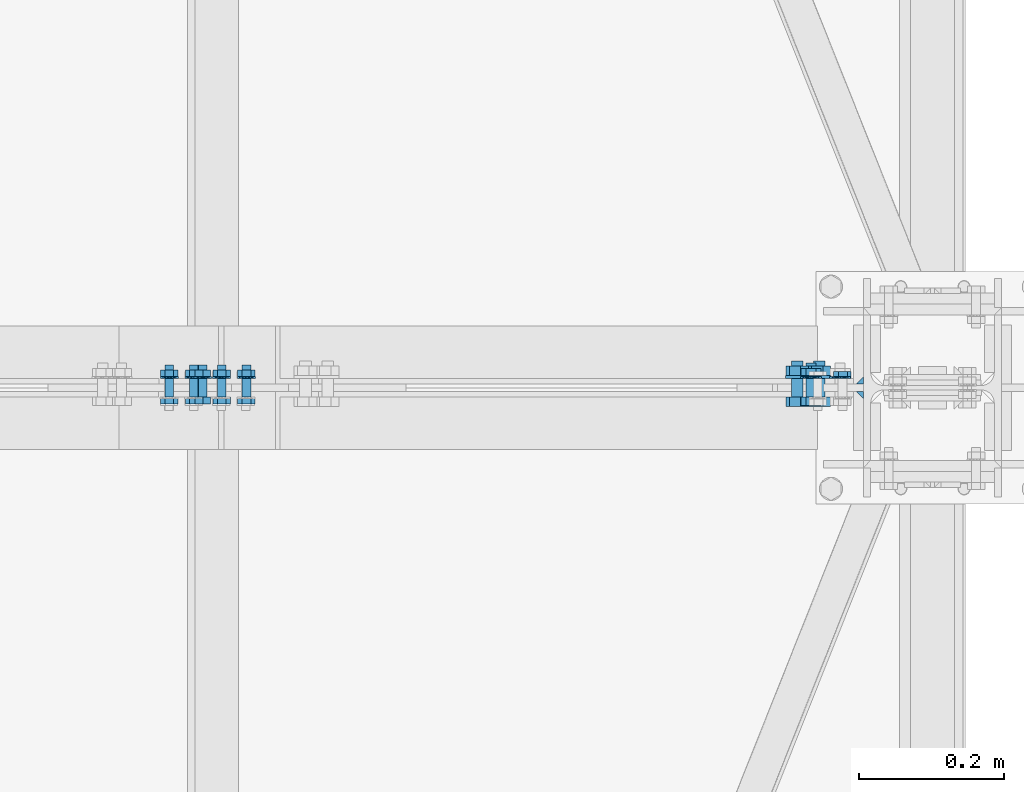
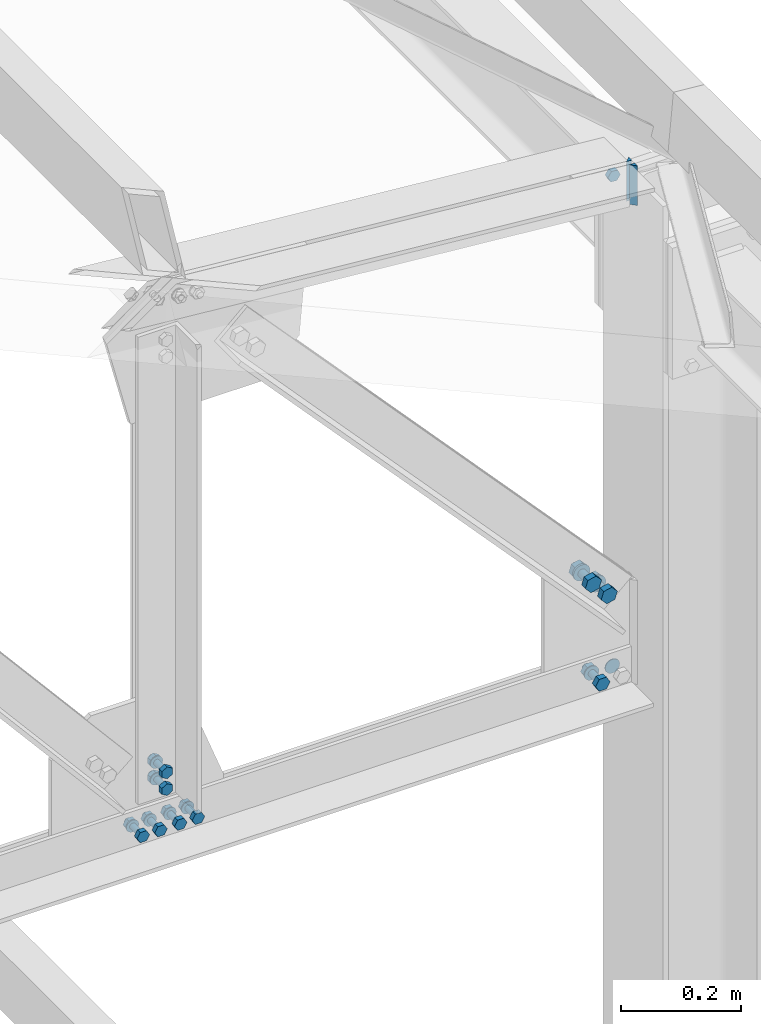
# One storey, part 179 of 251: 38 mechanical fasteners, 2 fasteners.
"""IFC4 building model written with IfcOpenShell, lengths in metres."""

from ifc_helpers import new_model, si_unit, frame, origin_with_axes, place, context, project, spatial, polyline, outline, extrude, type_object, element, save


model = new_model("IFC4")

# Units and contexts
model_context = context("Model", 3, precision=1e-05, world=origin_with_axes())
ifc_project = project(units=[si_unit("LENGTHUNIT", "METRE"), si_unit("AREAUNIT", "SQUARE_METRE"), si_unit("VOLUMEUNIT", "CUBIC_METRE"), si_unit("MASSUNIT", "GRAM", prefix="KILO"), si_unit("TIMEUNIT", "SECOND"), si_unit("PLANEANGLEUNIT", "RADIAN"), si_unit("SOLIDANGLEUNIT", "STERADIAN"), si_unit("THERMODYNAMICTEMPERATUREUNIT", "DEGREE_CELSIUS")], contexts=[model_context])

# Site, building, storey
placement_1 = place(None, origin_with_axes())
site = spatial("IfcSite", under=ifc_project, at=placement_1, Name="Italia", CompositionType="ELEMENT")
building = spatial("IfcBuilding", under=site, at=placement_1, Name="Deposito", CompositionType="ELEMENT")
storey = spatial("IfcBuildingStorey", under=building, at=placement_1, Name="Storey 0", CompositionType="ELEMENT", Elevation=0.0)

# Mechanical fasteners
mechanical_fastener_type_1 = type_object("IfcMechanicalFastenerType", Name="Reticolare 5", PredefinedType="BOLT")
placement_2 = place(placement_1, origin_with_axes())
mechanical_fastener_1_placement = place(placement_2, origin_with_axes())
element("IfcMechanicalFastener", 1, at=mechanical_fastener_1_placement, inside=storey, type_object=mechanical_fastener_type_1, Name="Reticolare 5", NominalDiameter=0.028, context=model_context, shape_type="SweptSolid", body=[
    extrude(outline(polyline([(0.0, 0.0), (-0.000476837, -0.00362349), (-0.00187492, -0.00699997), (-0.0041008, -0.00989962), (-0.00699997, -0.0121245), (-0.010376, -0.0135231), (-0.0139999, -0.0139999), (-0.0176239, -0.0135231), (-0.0209999, -0.0121245), (-0.0238991, -0.00989962), (-0.026125, -0.00699997), (-0.027523, -0.00362349), (-0.0279999, 0.0), (-0.027523, 0.00362349), (-0.026125, 0.00699997), (-0.0238991, 0.00989962), (-0.0209999, 0.0121245), (-0.0176239, 0.0135231), (-0.0139999, 0.0139999), (-0.010376, 0.0135231), (-0.00699997, 0.0121245), (-0.0041008, 0.00989962), (-0.00187492, 0.00699997), (-0.000476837, 0.00362349), (0.0, 0.0)])), frame((19.887, 15.015, 5.009), z_axis=(0.0, -1.0, 0.0), x_axis=(1.0, 0.0, 0.0)), (0.0, 0.0, 1.0), 0.00200081),
])
mechanical_fastener_type_2 = type_object("IfcMechanicalFastenerType", Name="Reticolare 5", PredefinedType="BOLT")
mechanical_fastener_2_placement = place(placement_2, origin_with_axes())
element("IfcMechanicalFastener", 2, at=mechanical_fastener_2_placement, inside=storey, type_object=mechanical_fastener_type_2, Name="Reticolare 5", NominalDiameter=0.0139997, context=model_context, shape_type="SweptSolid", body=[
    extrude(outline(polyline([(0.0, 0.0), (-0.0139999, 0.0), (-0.0209999, 0.0121241), (-0.0139999, 0.0242486), (0.0, 0.0242486), (0.00699997, 0.0121241), (0.0, 0.0)])), frame((19.84, 14.987, 4.99688), z_axis=(0.0, -1.0, 0.0), x_axis=(1.0, 0.0, 0.0)), (0.0, 0.0, 1.0), 0.0112009),
])
mechanical_fastener_type_3 = type_object("IfcMechanicalFastenerType", Name="Reticolare 5", PredefinedType="BOLT")
mechanical_fastener_3_placement = place(placement_2, origin_with_axes())
element("IfcMechanicalFastener", 3, at=mechanical_fastener_3_placement, inside=storey, type_object=mechanical_fastener_type_3, Name="Reticolare 5", NominalDiameter=0.014, context=model_context, shape_type="SweptSolid", body=[
    extrude(outline(polyline([(0.0, 0.0), (-0.000238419, -0.0018115), (-0.000938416, -0.00349998), (-0.0020504, -0.00494957), (-0.00349998, -0.00606203), (-0.00518799, -0.00676155), (-0.00699997, -0.00699997), (-0.00881195, -0.00676155), (-0.0105, -0.00606203), (-0.0119495, -0.00494957), (-0.0130615, -0.00349998), (-0.0137615, -0.0018115), (-0.0139999, 0.0), (-0.0137615, 0.0018115), (-0.0130615, 0.00349998), (-0.0119495, 0.00494957), (-0.0105, 0.00606203), (-0.00881195, 0.00676155), (-0.00699997, 0.00699997), (-0.00518799, 0.00676155), (-0.00349998, 0.00606203), (-0.0020504, 0.00494957), (-0.000938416, 0.00349998), (-0.000238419, 0.0018115), (0.0, 0.0)])), frame((19.84, 15.034, 5.009), z_axis=(0.0, -1.0, 0.0), x_axis=(1.0, 0.0, 0.0)), (0.0, 0.0, 1.0), 0.0469999),
])
mechanical_fastener_type_4 = type_object("IfcMechanicalFastenerType", Name="Reticolare 5", PredefinedType="BOLT")
mechanical_fastener_4_placement = place(placement_2, origin_with_axes())
element("IfcMechanicalFastener", 4, at=mechanical_fastener_4_placement, inside=storey, type_object=mechanical_fastener_type_4, Name="Reticolare 5", NominalDiameter=0.0139997, context=model_context, shape_type="SweptSolid", body=[
    extrude(outline(polyline([(0.0, 0.0), (-0.0139999, 0.0), (-0.0209999, 0.0121241), (-0.0139999, 0.0242486), (0.0, 0.0242486), (0.00699997, 0.0121241), (0.0, 0.0)])), frame((19.84, 15.0262, 4.99688), z_axis=(0.0, -1.0, 0.0), x_axis=(1.0, 0.0, 0.0)), (0.0, 0.0, 1.0), 0.0112),
])
mechanical_fastener_type_5 = type_object("IfcMechanicalFastenerType", Name="Reticolare 5", PredefinedType="BOLT")
mechanical_fastener_5_placement = place(placement_2, origin_with_axes())
element("IfcMechanicalFastener", 5, at=mechanical_fastener_5_placement, inside=storey, type_object=mechanical_fastener_type_5, Name="Reticolare 5", NominalDiameter=0.028, context=model_context, shape_type="SweptSolid", body=[
    extrude(outline(polyline([(0.0, 0.0), (-0.000476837, -0.00362349), (-0.00187492, -0.00699997), (-0.0041008, -0.00989962), (-0.00699997, -0.0121245), (-0.010376, -0.0135231), (-0.0139999, -0.0139999), (-0.0176239, -0.0135231), (-0.0209999, -0.0121245), (-0.0238991, -0.00989962), (-0.026125, -0.00699997), (-0.027523, -0.00362349), (-0.0279999, 0.0), (-0.027523, 0.00362349), (-0.026125, 0.00699997), (-0.0238991, 0.00989962), (-0.0209999, 0.0121245), (-0.0176239, 0.0135231), (-0.0139999, 0.0139999), (-0.010376, 0.0135231), (-0.00699997, 0.0121245), (-0.0041008, 0.00989962), (-0.00187492, 0.00699997), (-0.000476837, 0.00362349), (0.0, 0.0)])), frame((19.847, 15.015, 5.009), z_axis=(0.0, -1.0, 0.0), x_axis=(1.0, 0.0, 0.0)), (0.0, 0.0, 1.0), 0.00200081),
])
mechanical_fastener_type_6 = type_object("IfcMechanicalFastenerType", Name="Reticolare 5", PredefinedType="BOLT")
mechanical_fastener_6_placement = place(placement_2, origin_with_axes())
element("IfcMechanicalFastener", 6, at=mechanical_fastener_6_placement, inside=storey, type_object=mechanical_fastener_type_6, Name="Reticolare 5", NominalDiameter=0.0159985, context=model_context, shape_type="SweptSolid", body=[
    extrude(outline(polyline([(0.0, 0.0), (-0.0108109, 0.0117965), (-0.00599861, 0.0270557), (0.00962257, 0.030519), (0.0204315, 0.0187225), (0.0156193, 0.00346279), (0.0, 0.0)])), frame((19.8397, 14.987, 5.17076), z_axis=(0.0, -1.0, 0.0), x_axis=(1.0, 0.0, 0.0)), (0.0, 0.0, 1.0), 0.0128002),
])
mechanical_fastener_type_7 = type_object("IfcMechanicalFastenerType", Name="Reticolare 5", PredefinedType="BOLT")
mechanical_fastener_7_placement = place(placement_2, origin_with_axes())
element("IfcMechanicalFastener", 7, at=mechanical_fastener_7_placement, inside=storey, type_object=mechanical_fastener_type_7, Name="Reticolare 5", NominalDiameter=0.016, context=model_context, shape_type="SweptSolid", body=[
    extrude(outline(polyline([(0.0, 0.0), (-0.000272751, -0.00207043), (-0.00107193, -0.00400019), (-0.00234222, -0.00565672), (-0.00399971, -0.00692797), (-0.00592804, -0.00772762), (-0.00799942, -0.0079999), (-0.0100708, -0.00772762), (-0.0119991, -0.00692797), (-0.0136566, -0.00565672), (-0.0149269, -0.00400019), (-0.0157261, -0.00207043), (-0.0159988, 0.0), (-0.0157261, 0.00207043), (-0.0149269, 0.00400019), (-0.0136566, 0.00565672), (-0.0119991, 0.00692797), (-0.0100708, 0.00772762), (-0.00799942, 0.0079999), (-0.00592804, 0.00772762), (-0.00399971, 0.00692797), (-0.00234222, 0.00565672), (-0.00107193, 0.00400019), (-0.000272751, 0.00207043), (0.0, 0.0)])), frame((19.8525, 15.037, 5.18602), z_axis=(0.0, -1.0, 0.0), x_axis=(1.0, 0.0, 0.0)), (0.0, 0.0, 1.0), 0.0499992),
])
mechanical_fastener_type_8 = type_object("IfcMechanicalFastenerType", Name="Reticolare 5", PredefinedType="BOLT")
mechanical_fastener_8_placement = place(placement_2, origin_with_axes())
element("IfcMechanicalFastener", 8, at=mechanical_fastener_8_placement, inside=storey, type_object=mechanical_fastener_type_8, Name="Reticolare 5", NominalDiameter=0.0159985, context=model_context, shape_type="SweptSolid", body=[
    extrude(outline(polyline([(0.0, 0.0), (-0.0108109, 0.0117965), (-0.00599861, 0.0270557), (0.00962257, 0.030519), (0.0204315, 0.0187225), (0.0156193, 0.00346279), (0.0, 0.0)])), frame((19.8397, 15.0298, 5.17076), z_axis=(0.0, -1.0, 0.0), x_axis=(1.0, 0.0, 0.0)), (0.0, 0.0, 1.0), 0.0128002),
])
mechanical_fastener_type_9 = type_object("IfcMechanicalFastenerType", Name="Reticolare 5", PredefinedType="BOLT")
mechanical_fastener_9_placement = place(placement_2, origin_with_axes())
element("IfcMechanicalFastener", 9, at=mechanical_fastener_9_placement, inside=storey, type_object=mechanical_fastener_type_9, Name="Reticolare 5", NominalDiameter=0.032, context=model_context, shape_type="SweptSolid", body=[
    extrude(outline(polyline([(0.0, 0.0), (-0.000545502, -0.00414133), (-0.00214386, -0.0079999), (-0.00468636, -0.0113139), (-0.00800133, -0.0138564), (-0.0118599, -0.0154548), (-0.0160007, -0.0159998), (-0.0201416, -0.0154548), (-0.0240002, -0.0138564), (-0.0273151, -0.0113139), (-0.0298576, -0.0079999), (-0.031456, -0.00414133), (-0.0320015, 0.0), (-0.031456, 0.00414133), (-0.0298576, 0.0079999), (-0.0273151, 0.0113139), (-0.0240002, 0.0138564), (-0.0201416, 0.0154548), (-0.0160007, 0.0159998), (-0.0118599, 0.0154548), (-0.00800133, 0.0138564), (-0.00468636, 0.0113139), (-0.00214386, 0.0079999), (-0.000545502, 0.00414133), (0.0, 0.0)])), frame((19.8605, 15.017, 5.18602), z_axis=(0.0, -1.0, 0.0), x_axis=(1.0, 0.0, 0.0)), (0.0, 0.0, 1.0), 0.00400066),
])
mechanical_fastener_type_10 = type_object("IfcMechanicalFastenerType", Name="Reticolare 5", PredefinedType="BOLT")
mechanical_fastener_10_placement = place(placement_2, origin_with_axes())
element("IfcMechanicalFastener", 10, at=mechanical_fastener_10_placement, inside=storey, type_object=mechanical_fastener_type_10, Name="Reticolare 5", NominalDiameter=0.0159985, context=model_context, shape_type="SweptSolid", body=[
    extrude(outline(polyline([(0.0, 0.0), (-0.0108089, 0.0117965), (-0.0059967, 0.0270562), (0.00962257, 0.030519), (0.0204334, 0.0187225), (0.0156212, 0.00346327), (0.0, 0.0)])), frame((19.8093, 14.987, 5.20394), z_axis=(0.0, -1.0, 0.0), x_axis=(1.0, 0.0, 0.0)), (0.0, 0.0, 1.0), 0.0128002),
])
mechanical_fastener_type_11 = type_object("IfcMechanicalFastenerType", Name="Reticolare 5", PredefinedType="BOLT")
mechanical_fastener_11_placement = place(placement_2, origin_with_axes())
element("IfcMechanicalFastener", 11, at=mechanical_fastener_11_placement, inside=storey, type_object=mechanical_fastener_type_11, Name="Reticolare 5", NominalDiameter=0.016, context=model_context, shape_type="SweptSolid", body=[
    extrude(outline(polyline([(0.0, 0.0), (-0.000272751, -0.00207043), (-0.00107193, -0.00400019), (-0.00234222, -0.00565672), (-0.00399971, -0.00692797), (-0.00592804, -0.00772762), (-0.00799942, -0.0079999), (-0.0100708, -0.00772762), (-0.0119991, -0.00692797), (-0.0136566, -0.00565672), (-0.0149269, -0.00400019), (-0.0157261, -0.00207043), (-0.0159988, 0.0), (-0.0157261, 0.00207043), (-0.0149269, 0.00400019), (-0.0136566, 0.00565672), (-0.0119991, 0.00692797), (-0.0100708, 0.00772762), (-0.00799942, 0.0079999), (-0.00592804, 0.00772762), (-0.00399971, 0.00692797), (-0.00234222, 0.00565672), (-0.00107193, 0.00400019), (-0.000272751, 0.00207043), (0.0, 0.0)])), frame((19.8221, 15.037, 5.2192), z_axis=(0.0, -1.0, 0.0), x_axis=(1.0, 0.0, 0.0)), (0.0, 0.0, 1.0), 0.0499992),
])
mechanical_fastener_type_12 = type_object("IfcMechanicalFastenerType", Name="Reticolare 5", PredefinedType="BOLT")
mechanical_fastener_12_placement = place(placement_2, origin_with_axes())
element("IfcMechanicalFastener", 12, at=mechanical_fastener_12_placement, inside=storey, type_object=mechanical_fastener_type_12, Name="Reticolare 5", NominalDiameter=0.0159985, context=model_context, shape_type="SweptSolid", body=[
    extrude(outline(polyline([(0.0, 0.0), (-0.0108089, 0.0117965), (-0.0059967, 0.0270562), (0.00962257, 0.030519), (0.0204334, 0.0187225), (0.0156212, 0.00346327), (0.0, 0.0)])), frame((19.8093, 15.0298, 5.20394), z_axis=(0.0, -1.0, 0.0), x_axis=(1.0, 0.0, 0.0)), (0.0, 0.0, 1.0), 0.0128002),
])
mechanical_fastener_type_13 = type_object("IfcMechanicalFastenerType", Name="Reticolare 5", PredefinedType="BOLT")
mechanical_fastener_13_placement = place(placement_2, origin_with_axes())
element("IfcMechanicalFastener", 13, at=mechanical_fastener_13_placement, inside=storey, type_object=mechanical_fastener_type_13, Name="Reticolare 5", NominalDiameter=0.032, context=model_context, shape_type="SweptSolid", body=[
    extrude(outline(polyline([(0.0, 0.0), (-0.000545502, -0.00414133), (-0.00214386, -0.0079999), (-0.00468636, -0.0113139), (-0.00800133, -0.0138564), (-0.0118599, -0.0154548), (-0.0160007, -0.0159998), (-0.0201416, -0.0154548), (-0.0240002, -0.0138564), (-0.0273151, -0.0113139), (-0.0298576, -0.0079999), (-0.031456, -0.00414133), (-0.0320015, 0.0), (-0.031456, 0.00414133), (-0.0298576, 0.0079999), (-0.0273151, 0.0113139), (-0.0240002, 0.0138564), (-0.0201416, 0.0154548), (-0.0160007, 0.0159998), (-0.0118599, 0.0154548), (-0.00800133, 0.0138564), (-0.00468636, 0.0113139), (-0.00214386, 0.0079999), (-0.000545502, 0.00414133), (0.0, 0.0)])), frame((19.8301, 15.017, 5.2192), z_axis=(0.0, -1.0, 0.0), x_axis=(1.0, 0.0, 0.0)), (0.0, 0.0, 1.0), 0.00400066),
])
mechanical_fastener_type_14 = type_object("IfcMechanicalFastenerType", Name="Reticolare 5", PredefinedType="BOLT")
mechanical_fastener_14_placement = place(placement_2, origin_with_axes())
element("IfcMechanicalFastener", 14, at=mechanical_fastener_14_placement, inside=storey, type_object=mechanical_fastener_type_14, Name="Reticolare 5", NominalDiameter=0.0119991, context=model_context, shape_type="SweptSolid", body=[
    extrude(outline(polyline([(0.0, 0.0), (-0.0119991, 0.0), (-0.0179996, 0.0103922), (-0.0119991, 0.0207844), (0.0, 0.0207844), (0.00600052, 0.0103922), (0.0, 0.0)])), frame((18.9908, 14.987, 4.99661), z_axis=(0.0, -1.0, 0.0), x_axis=(1.0, 0.0, 0.0)), (0.0, 0.0, 1.0), 0.00960064),
])
mechanical_fastener_type_15 = type_object("IfcMechanicalFastenerType", Name="Reticolare 5", PredefinedType="BOLT")
mechanical_fastener_15_placement = place(placement_2, origin_with_axes())
element("IfcMechanicalFastener", 15, at=mechanical_fastener_15_placement, inside=storey, type_object=mechanical_fastener_type_15, Name="Reticolare 5", NominalDiameter=0.012, context=model_context, shape_type="SweptSolid", body=[
    extrude(outline(polyline([(0.0, 0.0), (-0.000204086, -0.00155306), (-0.000804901, -0.00299978), (-0.00175858, -0.00424242), (-0.00300026, -0.00519609), (-0.00444794, -0.00579548), (-0.00600052, -0.00600004), (-0.0075531, -0.00579548), (-0.00900078, -0.00519609), (-0.0102425, -0.00424242), (-0.0111961, -0.00299978), (-0.011797, -0.00155306), (-0.012001, 0.0), (-0.011797, 0.00155306), (-0.0111961, 0.00299978), (-0.0102425, 0.00424242), (-0.00900078, 0.00519609), (-0.0075531, 0.00579548), (-0.00600052, 0.00600004), (-0.00444794, 0.00579548), (-0.00300026, 0.00519609), (-0.00175858, 0.00424242), (-0.000804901, 0.00299978), (-0.000204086, 0.00155306), (0.0, 0.0)])), frame((18.9908, 15.031, 5.007), z_axis=(0.0, -1.0, 0.0), x_axis=(1.0, 0.0, 0.0)), (0.0, 0.0, 1.0), 0.0439997),
])
mechanical_fastener_type_16 = type_object("IfcMechanicalFastenerType", Name="Reticolare 5", PredefinedType="BOLT")
mechanical_fastener_16_placement = place(placement_2, origin_with_axes())
element("IfcMechanicalFastener", 16, at=mechanical_fastener_16_placement, inside=storey, type_object=mechanical_fastener_type_16, Name="Reticolare 5", NominalDiameter=0.0119991, context=model_context, shape_type="SweptSolid", body=[
    extrude(outline(polyline([(0.0, 0.0), (-0.0119991, 0.0), (-0.0179996, 0.0103922), (-0.0119991, 0.0207844), (0.0, 0.0207844), (0.00600052, 0.0103922), (0.0, 0.0)])), frame((18.9908, 15.0246, 4.99661), z_axis=(0.0, -1.0, 0.0), x_axis=(1.0, 0.0, 0.0)), (0.0, 0.0, 1.0), 0.00959969),
])
mechanical_fastener_type_17 = type_object("IfcMechanicalFastenerType", Name="Reticolare 5", PredefinedType="BOLT")
mechanical_fastener_17_placement = place(placement_2, origin_with_axes())
element("IfcMechanicalFastener", 17, at=mechanical_fastener_17_placement, inside=storey, type_object=mechanical_fastener_type_17, Name="Reticolare 5", NominalDiameter=0.024, context=model_context, shape_type="SweptSolid", body=[
    extrude(outline(polyline([(0.0, 0.0), (-0.000408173, -0.00310564), (-0.00160599, -0.00600004), (-0.00351334, -0.00848532), (-0.00599861, -0.0103922), (-0.00889397, -0.011591), (-0.0119991, -0.0120001), (-0.0151043, -0.011591), (-0.0179996, -0.0103922), (-0.0204849, -0.00848532), (-0.0223923, -0.00600004), (-0.0235901, -0.00310564), (-0.0239983, 0.0), (-0.0235901, 0.00310564), (-0.0223923, 0.00600004), (-0.0204849, 0.00848532), (-0.0179996, 0.0103922), (-0.0151043, 0.011591), (-0.0119991, 0.0120001), (-0.00889397, 0.011591), (-0.00599861, 0.0103922), (-0.00351334, 0.00848532), (-0.00160599, 0.00600004), (-0.000408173, 0.00310564), (0.0, 0.0)])), frame((18.9968, 15.015, 5.007), z_axis=(0.0, -1.0, 0.0), x_axis=(1.0, 0.0, 0.0)), (0.0, 0.0, 1.0), 0.00200081),
])
mechanical_fastener_type_18 = type_object("IfcMechanicalFastenerType", Name="Reticolare 5", PredefinedType="BOLT")
mechanical_fastener_18_placement = place(placement_2, origin_with_axes())
element("IfcMechanicalFastener", 18, at=mechanical_fastener_18_placement, inside=storey, type_object=mechanical_fastener_type_18, Name="Reticolare 5", NominalDiameter=0.0119991, context=model_context, shape_type="SweptSolid", body=[
    extrude(outline(polyline([(0.0, 0.0), (-0.0119991, 0.0), (-0.0179996, 0.0103922), (-0.0119991, 0.0207844), (0.0, 0.0207844), (0.00600052, 0.0103922), (0.0, 0.0)])), frame((18.9568, 14.987, 4.99661), z_axis=(0.0, -1.0, 0.0), x_axis=(1.0, 0.0, 0.0)), (0.0, 0.0, 1.0), 0.00960064),
])
mechanical_fastener_type_19 = type_object("IfcMechanicalFastenerType", Name="Reticolare 5", PredefinedType="BOLT")
mechanical_fastener_19_placement = place(placement_2, origin_with_axes())
element("IfcMechanicalFastener", 19, at=mechanical_fastener_19_placement, inside=storey, type_object=mechanical_fastener_type_19, Name="Reticolare 5", NominalDiameter=0.012, context=model_context, shape_type="SweptSolid", body=[
    extrude(outline(polyline([(0.0, 0.0), (-0.000204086, -0.00155306), (-0.000804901, -0.00299978), (-0.00175858, -0.00424242), (-0.00300026, -0.00519609), (-0.00444794, -0.00579548), (-0.00600052, -0.00600004), (-0.0075531, -0.00579548), (-0.00900078, -0.00519609), (-0.0102425, -0.00424242), (-0.0111961, -0.00299978), (-0.011797, -0.00155306), (-0.012001, 0.0), (-0.011797, 0.00155306), (-0.0111961, 0.00299978), (-0.0102425, 0.00424242), (-0.00900078, 0.00519609), (-0.0075531, 0.00579548), (-0.00600052, 0.00600004), (-0.00444794, 0.00579548), (-0.00300026, 0.00519609), (-0.00175858, 0.00424242), (-0.000804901, 0.00299978), (-0.000204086, 0.00155306), (0.0, 0.0)])), frame((18.9568, 15.031, 5.007), z_axis=(0.0, -1.0, 0.0), x_axis=(1.0, 0.0, 0.0)), (0.0, 0.0, 1.0), 0.0439997),
])
mechanical_fastener_type_20 = type_object("IfcMechanicalFastenerType", Name="Reticolare 5", PredefinedType="BOLT")
mechanical_fastener_20_placement = place(placement_2, origin_with_axes())
element("IfcMechanicalFastener", 20, at=mechanical_fastener_20_placement, inside=storey, type_object=mechanical_fastener_type_20, Name="Reticolare 5", NominalDiameter=0.0119991, context=model_context, shape_type="SweptSolid", body=[
    extrude(outline(polyline([(0.0, 0.0), (-0.0119991, 0.0), (-0.0179996, 0.0103922), (-0.0119991, 0.0207844), (0.0, 0.0207844), (0.00600052, 0.0103922), (0.0, 0.0)])), frame((18.9568, 15.0246, 4.99661), z_axis=(0.0, -1.0, 0.0), x_axis=(1.0, 0.0, 0.0)), (0.0, 0.0, 1.0), 0.00959969),
])
mechanical_fastener_type_21 = type_object("IfcMechanicalFastenerType", Name="Reticolare 5", PredefinedType="BOLT")
mechanical_fastener_21_placement = place(placement_2, origin_with_axes())
element("IfcMechanicalFastener", 21, at=mechanical_fastener_21_placement, inside=storey, type_object=mechanical_fastener_type_21, Name="Reticolare 5", NominalDiameter=0.024, context=model_context, shape_type="SweptSolid", body=[
    extrude(outline(polyline([(0.0, 0.0), (-0.000408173, -0.00310564), (-0.00160599, -0.00600004), (-0.00351334, -0.00848532), (-0.00599861, -0.0103922), (-0.00889397, -0.011591), (-0.0119991, -0.0120001), (-0.0151043, -0.011591), (-0.0179996, -0.0103922), (-0.0204849, -0.00848532), (-0.0223923, -0.00600004), (-0.0235901, -0.00310564), (-0.0239983, 0.0), (-0.0235901, 0.00310564), (-0.0223923, 0.00600004), (-0.0204849, 0.00848532), (-0.0179996, 0.0103922), (-0.0151043, 0.011591), (-0.0119991, 0.0120001), (-0.00889397, 0.011591), (-0.00599861, 0.0103922), (-0.00351334, 0.00848532), (-0.00160599, 0.00600004), (-0.000408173, 0.00310564), (0.0, 0.0)])), frame((18.9628, 15.015, 5.007), z_axis=(0.0, -1.0, 0.0), x_axis=(1.0, 0.0, 0.0)), (0.0, 0.0, 1.0), 0.00200081),
])
mechanical_fastener_type_22 = type_object("IfcMechanicalFastenerType", Name="Reticolare 5", PredefinedType="BOLT")
mechanical_fastener_22_placement = place(placement_2, origin_with_axes())
element("IfcMechanicalFastener", 22, at=mechanical_fastener_22_placement, inside=storey, type_object=mechanical_fastener_type_22, Name="Reticolare 5", NominalDiameter=0.0119991, context=model_context, shape_type="SweptSolid", body=[
    extrude(outline(polyline([(0.0, 0.0), (-0.0119991, 0.0), (-0.0179996, 0.0103922), (-0.0119991, 0.0207844), (0.0, 0.0207844), (0.00600052, 0.0103922), (0.0, 0.0)])), frame((19.0288, 14.987, 4.99661), z_axis=(0.0, -1.0, 0.0), x_axis=(1.0, 0.0, 0.0)), (0.0, 0.0, 1.0), 0.00960064),
])
mechanical_fastener_type_23 = type_object("IfcMechanicalFastenerType", Name="Reticolare 5", PredefinedType="BOLT")
mechanical_fastener_23_placement = place(placement_2, origin_with_axes())
element("IfcMechanicalFastener", 23, at=mechanical_fastener_23_placement, inside=storey, type_object=mechanical_fastener_type_23, Name="Reticolare 5", NominalDiameter=0.012, context=model_context, shape_type="SweptSolid", body=[
    extrude(outline(polyline([(0.0, 0.0), (-0.000204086, -0.00155306), (-0.000804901, -0.00299978), (-0.00175858, -0.00424242), (-0.00300026, -0.00519609), (-0.00444794, -0.00579548), (-0.00600052, -0.00600004), (-0.0075531, -0.00579548), (-0.00900078, -0.00519609), (-0.0102425, -0.00424242), (-0.0111961, -0.00299978), (-0.011797, -0.00155306), (-0.012001, 0.0), (-0.011797, 0.00155306), (-0.0111961, 0.00299978), (-0.0102425, 0.00424242), (-0.00900078, 0.00519609), (-0.0075531, 0.00579548), (-0.00600052, 0.00600004), (-0.00444794, 0.00579548), (-0.00300026, 0.00519609), (-0.00175858, 0.00424242), (-0.000804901, 0.00299978), (-0.000204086, 0.00155306), (0.0, 0.0)])), frame((19.0288, 15.031, 5.007), z_axis=(0.0, -1.0, 0.0), x_axis=(1.0, 0.0, 0.0)), (0.0, 0.0, 1.0), 0.0439997),
])
mechanical_fastener_type_24 = type_object("IfcMechanicalFastenerType", Name="Reticolare 5", PredefinedType="BOLT")
mechanical_fastener_24_placement = place(placement_2, origin_with_axes())
element("IfcMechanicalFastener", 24, at=mechanical_fastener_24_placement, inside=storey, type_object=mechanical_fastener_type_24, Name="Reticolare 5", NominalDiameter=0.0119991, context=model_context, shape_type="SweptSolid", body=[
    extrude(outline(polyline([(0.0, 0.0), (-0.0119991, 0.0), (-0.0179996, 0.0103922), (-0.0119991, 0.0207844), (0.0, 0.0207844), (0.00600052, 0.0103922), (0.0, 0.0)])), frame((19.0288, 15.0246, 4.99661), z_axis=(0.0, -1.0, 0.0), x_axis=(1.0, 0.0, 0.0)), (0.0, 0.0, 1.0), 0.00959969),
])
mechanical_fastener_type_25 = type_object("IfcMechanicalFastenerType", Name="Reticolare 5", PredefinedType="BOLT")
mechanical_fastener_25_placement = place(placement_2, origin_with_axes())
element("IfcMechanicalFastener", 25, at=mechanical_fastener_25_placement, inside=storey, type_object=mechanical_fastener_type_25, Name="Reticolare 5", NominalDiameter=0.024, context=model_context, shape_type="SweptSolid", body=[
    extrude(outline(polyline([(0.0, 0.0), (-0.000408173, -0.00310564), (-0.00160599, -0.00600004), (-0.00351334, -0.00848532), (-0.00599861, -0.0103922), (-0.00889397, -0.011591), (-0.0119991, -0.0120001), (-0.0151043, -0.011591), (-0.0179996, -0.0103922), (-0.0204849, -0.00848532), (-0.0223923, -0.00600004), (-0.0235901, -0.00310564), (-0.0239983, 0.0), (-0.0235901, 0.00310564), (-0.0223923, 0.00600004), (-0.0204849, 0.00848532), (-0.0179996, 0.0103922), (-0.0151043, 0.011591), (-0.0119991, 0.0120001), (-0.00889397, 0.011591), (-0.00599861, 0.0103922), (-0.00351334, 0.00848532), (-0.00160599, 0.00600004), (-0.000408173, 0.00310564), (0.0, 0.0)])), frame((19.0348, 15.015, 5.007), z_axis=(0.0, -1.0, 0.0), x_axis=(1.0, 0.0, 0.0)), (0.0, 0.0, 1.0), 0.00200081),
])
mechanical_fastener_type_26 = type_object("IfcMechanicalFastenerType", Name="Reticolare 5", PredefinedType="BOLT")
mechanical_fastener_26_placement = place(placement_2, origin_with_axes())
element("IfcMechanicalFastener", 26, at=mechanical_fastener_26_placement, inside=storey, type_object=mechanical_fastener_type_26, Name="Reticolare 5", NominalDiameter=0.0119991, context=model_context, shape_type="SweptSolid", body=[
    extrude(outline(polyline([(0.0, 0.0), (-0.0119991, 0.0), (-0.0179996, 0.0103922), (-0.0119991, 0.0207844), (0.0, 0.0207844), (0.00600052, 0.0103922), (0.0, 0.0)])), frame((19.0628, 14.987, 4.99661), z_axis=(0.0, -1.0, 0.0), x_axis=(1.0, 0.0, 0.0)), (0.0, 0.0, 1.0), 0.00960064),
])
mechanical_fastener_type_27 = type_object("IfcMechanicalFastenerType", Name="Reticolare 5", PredefinedType="BOLT")
mechanical_fastener_27_placement = place(placement_2, origin_with_axes())
element("IfcMechanicalFastener", 27, at=mechanical_fastener_27_placement, inside=storey, type_object=mechanical_fastener_type_27, Name="Reticolare 5", NominalDiameter=0.012, context=model_context, shape_type="SweptSolid", body=[
    extrude(outline(polyline([(0.0, 0.0), (-0.000204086, -0.00155306), (-0.000804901, -0.00299978), (-0.00175858, -0.00424242), (-0.00300026, -0.00519609), (-0.00444794, -0.00579548), (-0.00600052, -0.00600004), (-0.0075531, -0.00579548), (-0.00900078, -0.00519609), (-0.0102425, -0.00424242), (-0.0111961, -0.00299978), (-0.011797, -0.00155306), (-0.012001, 0.0), (-0.011797, 0.00155306), (-0.0111961, 0.00299978), (-0.0102425, 0.00424242), (-0.00900078, 0.00519609), (-0.0075531, 0.00579548), (-0.00600052, 0.00600004), (-0.00444794, 0.00579548), (-0.00300026, 0.00519609), (-0.00175858, 0.00424242), (-0.000804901, 0.00299978), (-0.000204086, 0.00155306), (0.0, 0.0)])), frame((19.0628, 15.031, 5.007), z_axis=(0.0, -1.0, 0.0), x_axis=(1.0, 0.0, 0.0)), (0.0, 0.0, 1.0), 0.0439997),
])
mechanical_fastener_type_28 = type_object("IfcMechanicalFastenerType", Name="Reticolare 5", PredefinedType="BOLT")
mechanical_fastener_28_placement = place(placement_2, origin_with_axes())
element("IfcMechanicalFastener", 28, at=mechanical_fastener_28_placement, inside=storey, type_object=mechanical_fastener_type_28, Name="Reticolare 5", NominalDiameter=0.0119991, context=model_context, shape_type="SweptSolid", body=[
    extrude(outline(polyline([(0.0, 0.0), (-0.0119991, 0.0), (-0.0179996, 0.0103922), (-0.0119991, 0.0207844), (0.0, 0.0207844), (0.00600052, 0.0103922), (0.0, 0.0)])), frame((19.0628, 15.0246, 4.99661), z_axis=(0.0, -1.0, 0.0), x_axis=(1.0, 0.0, 0.0)), (0.0, 0.0, 1.0), 0.00959969),
])
mechanical_fastener_type_29 = type_object("IfcMechanicalFastenerType", Name="Reticolare 5", PredefinedType="BOLT")
mechanical_fastener_29_placement = place(placement_2, origin_with_axes())
element("IfcMechanicalFastener", 29, at=mechanical_fastener_29_placement, inside=storey, type_object=mechanical_fastener_type_29, Name="Reticolare 5", NominalDiameter=0.024, context=model_context, shape_type="SweptSolid", body=[
    extrude(outline(polyline([(0.0, 0.0), (-0.000408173, -0.00310564), (-0.00160599, -0.00600004), (-0.00351334, -0.00848532), (-0.00599861, -0.0103922), (-0.00889397, -0.011591), (-0.0119991, -0.0120001), (-0.0151043, -0.011591), (-0.0179996, -0.0103922), (-0.0204849, -0.00848532), (-0.0223923, -0.00600004), (-0.0235901, -0.00310564), (-0.0239983, 0.0), (-0.0235901, 0.00310564), (-0.0223923, 0.00600004), (-0.0204849, 0.00848532), (-0.0179996, 0.0103922), (-0.0151043, 0.011591), (-0.0119991, 0.0120001), (-0.00889397, 0.011591), (-0.00599861, 0.0103922), (-0.00351334, 0.00848532), (-0.00160599, 0.00600004), (-0.000408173, 0.00310564), (0.0, 0.0)])), frame((19.0688, 15.015, 5.007), z_axis=(0.0, -1.0, 0.0), x_axis=(1.0, 0.0, 0.0)), (0.0, 0.0, 1.0), 0.00200081),
])
mechanical_fastener_type_30 = type_object("IfcMechanicalFastenerType", Name="Reticolare 5", PredefinedType="BOLT")
mechanical_fastener_30_placement = place(placement_2, origin_with_axes())
element("IfcMechanicalFastener", 30, at=mechanical_fastener_30_placement, inside=storey, type_object=mechanical_fastener_type_30, Name="Reticolare 5", NominalDiameter=0.0120001, context=model_context, shape_type="SweptSolid", body=[
    extrude(outline(polyline([(0.0, 0.0), (0.0, -0.0120001), (-0.0103931, -0.0180001), (-0.0207863, -0.0120001), (-0.0207863, 0.0), (-0.0103931, 0.00600004), (0.0, 0.0)])), frame((19.0072, 14.987, 5.09253), z_axis=(0.0, -1.0, 0.0), x_axis=(1.0, 0.0, 0.0)), (0.0, 0.0, 1.0), 0.00960064),
])
mechanical_fastener_type_31 = type_object("IfcMechanicalFastenerType", Name="Reticolare 5", PredefinedType="BOLT")
mechanical_fastener_31_placement = place(placement_2, origin_with_axes())
element("IfcMechanicalFastener", 31, at=mechanical_fastener_31_placement, inside=storey, type_object=mechanical_fastener_type_31, Name="Reticolare 5", NominalDiameter=0.012, context=model_context, shape_type="SweptSolid", body=[
    extrude(outline(polyline([(0.0, 0.0), (-0.000204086, -0.00155306), (-0.000804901, -0.00299978), (-0.00175858, -0.00424242), (-0.00300026, -0.00519609), (-0.00444794, -0.00579548), (-0.00600052, -0.00600004), (-0.0075531, -0.00579548), (-0.00900078, -0.00519609), (-0.0102425, -0.00424242), (-0.0111961, -0.00299978), (-0.011797, -0.00155306), (-0.012001, 0.0), (-0.011797, 0.00155306), (-0.0111961, 0.00299978), (-0.0102425, 0.00424242), (-0.00900078, 0.00519609), (-0.0075531, 0.00579548), (-0.00600052, 0.00600004), (-0.00444794, 0.00579548), (-0.00300026, 0.00519609), (-0.00175858, 0.00424242), (-0.000804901, 0.00299978), (-0.000204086, 0.00155306), (0.0, 0.0)])), frame((19.0028, 15.031, 5.08653), z_axis=(0.0, -1.0, 0.0), x_axis=(1.0, 0.0, 0.0)), (0.0, 0.0, 1.0), 0.0439997),
])
mechanical_fastener_type_32 = type_object("IfcMechanicalFastenerType", Name="Reticolare 5", PredefinedType="BOLT")
mechanical_fastener_32_placement = place(placement_2, origin_with_axes())
element("IfcMechanicalFastener", 32, at=mechanical_fastener_32_placement, inside=storey, type_object=mechanical_fastener_type_32, Name="Reticolare 5", NominalDiameter=0.0120001, context=model_context, shape_type="SweptSolid", body=[
    extrude(outline(polyline([(0.0, 0.0), (0.0, -0.0120001), (-0.0103931, -0.0180001), (-0.0207863, -0.0120001), (-0.0207863, 0.0), (-0.0103931, 0.00600004), (0.0, 0.0)])), frame((19.0072, 15.0246, 5.09253), z_axis=(0.0, -1.0, 0.0), x_axis=(1.0, 0.0, 0.0)), (0.0, 0.0, 1.0), 0.00959969),
])
mechanical_fastener_type_33 = type_object("IfcMechanicalFastenerType", Name="Reticolare 5", PredefinedType="BOLT")
mechanical_fastener_33_placement = place(placement_2, origin_with_axes())
element("IfcMechanicalFastener", 33, at=mechanical_fastener_33_placement, inside=storey, type_object=mechanical_fastener_type_33, Name="Reticolare 5", NominalDiameter=0.024, context=model_context, shape_type="SweptSolid", body=[
    extrude(outline(polyline([(0.0, 0.0), (-0.000408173, -0.00310564), (-0.00160599, -0.00600004), (-0.00351334, -0.00848532), (-0.00599861, -0.0103922), (-0.00889397, -0.011591), (-0.0119991, -0.0120001), (-0.0151043, -0.011591), (-0.0179996, -0.0103922), (-0.0204849, -0.00848532), (-0.0223923, -0.00600004), (-0.0235901, -0.00310564), (-0.0239983, 0.0), (-0.0235901, 0.00310564), (-0.0223923, 0.00600004), (-0.0204849, 0.00848532), (-0.0179996, 0.0103922), (-0.0151043, 0.011591), (-0.0119991, 0.0120001), (-0.00889397, 0.011591), (-0.00599861, 0.0103922), (-0.00351334, 0.00848532), (-0.00160599, 0.00600004), (-0.000408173, 0.00310564), (0.0, 0.0)])), frame((19.0088, 15.015, 5.08653), z_axis=(0.0, -1.0, 0.0), x_axis=(1.0, 0.0, 0.0)), (0.0, 0.0, 1.0), 0.00200081),
])
mechanical_fastener_type_34 = type_object("IfcMechanicalFastenerType", Name="Reticolare 5", PredefinedType="BOLT")
mechanical_fastener_34_placement = place(placement_2, origin_with_axes())
element("IfcMechanicalFastener", 34, at=mechanical_fastener_34_placement, inside=storey, type_object=mechanical_fastener_type_34, Name="Reticolare 5", NominalDiameter=0.0120001, context=model_context, shape_type="SweptSolid", body=[
    extrude(outline(polyline([(0.0, 0.0), (0.0, -0.0120001), (-0.0103931, -0.0180001), (-0.0207863, -0.0120001), (-0.0207863, 0.0), (-0.0103931, 0.00600004), (0.0, 0.0)])), frame((19.0072, 14.987, 5.12653), z_axis=(0.0, -1.0, 0.0), x_axis=(1.0, 0.0, 0.0)), (0.0, 0.0, 1.0), 0.00960064),
])
mechanical_fastener_type_35 = type_object("IfcMechanicalFastenerType", Name="Reticolare 5", PredefinedType="BOLT")
mechanical_fastener_35_placement = place(placement_2, origin_with_axes())
element("IfcMechanicalFastener", 35, at=mechanical_fastener_35_placement, inside=storey, type_object=mechanical_fastener_type_35, Name="Reticolare 5", NominalDiameter=0.012, context=model_context, shape_type="SweptSolid", body=[
    extrude(outline(polyline([(0.0, 0.0), (-0.000204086, -0.00155306), (-0.000804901, -0.00299978), (-0.00175858, -0.00424242), (-0.00300026, -0.00519609), (-0.00444794, -0.00579548), (-0.00600052, -0.00600004), (-0.0075531, -0.00579548), (-0.00900078, -0.00519609), (-0.0102425, -0.00424242), (-0.0111961, -0.00299978), (-0.011797, -0.00155306), (-0.012001, 0.0), (-0.011797, 0.00155306), (-0.0111961, 0.00299978), (-0.0102425, 0.00424242), (-0.00900078, 0.00519609), (-0.0075531, 0.00579548), (-0.00600052, 0.00600004), (-0.00444794, 0.00579548), (-0.00300026, 0.00519609), (-0.00175858, 0.00424242), (-0.000804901, 0.00299978), (-0.000204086, 0.00155306), (0.0, 0.0)])), frame((19.0028, 15.031, 5.12053), z_axis=(0.0, -1.0, 0.0), x_axis=(1.0, 0.0, 0.0)), (0.0, 0.0, 1.0), 0.0439997),
])
mechanical_fastener_type_36 = type_object("IfcMechanicalFastenerType", Name="Reticolare 5", PredefinedType="BOLT")
mechanical_fastener_36_placement = place(placement_2, origin_with_axes())
element("IfcMechanicalFastener", 36, at=mechanical_fastener_36_placement, inside=storey, type_object=mechanical_fastener_type_36, Name="Reticolare 5", NominalDiameter=0.0120001, context=model_context, shape_type="SweptSolid", body=[
    extrude(outline(polyline([(0.0, 0.0), (0.0, -0.0120001), (-0.0103931, -0.0180001), (-0.0207863, -0.0120001), (-0.0207863, 0.0), (-0.0103931, 0.00600004), (0.0, 0.0)])), frame((19.0072, 15.0246, 5.12653), z_axis=(0.0, -1.0, 0.0), x_axis=(1.0, 0.0, 0.0)), (0.0, 0.0, 1.0), 0.00959969),
])
mechanical_fastener_type_37 = type_object("IfcMechanicalFastenerType", Name="Reticolare 5", PredefinedType="BOLT")
mechanical_fastener_37_placement = place(placement_2, origin_with_axes())
element("IfcMechanicalFastener", 37, at=mechanical_fastener_37_placement, inside=storey, type_object=mechanical_fastener_type_37, Name="Reticolare 5", NominalDiameter=0.024, context=model_context, shape_type="SweptSolid", body=[
    extrude(outline(polyline([(0.0, 0.0), (-0.000408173, -0.00310564), (-0.00160599, -0.00600004), (-0.00351334, -0.00848532), (-0.00599861, -0.0103922), (-0.00889397, -0.011591), (-0.0119991, -0.0120001), (-0.0151043, -0.011591), (-0.0179996, -0.0103922), (-0.0204849, -0.00848532), (-0.0223923, -0.00600004), (-0.0235901, -0.00310564), (-0.0239983, 0.0), (-0.0235901, 0.00310564), (-0.0223923, 0.00600004), (-0.0204849, 0.00848532), (-0.0179996, 0.0103922), (-0.0151043, 0.011591), (-0.0119991, 0.0120001), (-0.00889397, 0.011591), (-0.00599861, 0.0103922), (-0.00351334, 0.00848532), (-0.00160599, 0.00600004), (-0.000408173, 0.00310564), (0.0, 0.0)])), frame((19.0088, 15.015, 5.12053), z_axis=(0.0, -1.0, 0.0), x_axis=(1.0, 0.0, 0.0)), (0.0, 0.0, 1.0), 0.00200081),
])

# Fasteners
fastener_type_1 = type_object("IfcFastenerType", Name="Reticolare 5", PredefinedType="WELD")
fastener_1_placement = place(placement_2, origin_with_axes())
element("IfcFastener", 38, at=fastener_1_placement, inside=storey, type_object=fastener_type_1, Name="Reticolare 5", context=model_context, shape_type="SweptSolid", body=[
    extrude(outline(polyline([(0.0, 0.0), (-0.00986862, -0.0101738), (-0.00986862, 0.0), (0.0, 0.0)])), frame((19.9051, 15.0148, 6.03096), z_axis=(0.0, 0.0, -1.0), x_axis=(0.0, 1.0, 0.0)), (0.0, 0.0, 1.0), 0.0804057),
])
fastener_type_2 = type_object("IfcFastenerType", Name="Reticolare 5", PredefinedType="WELD")
fastener_2_placement = place(placement_2, origin_with_axes())
element("IfcFastener", 39, at=fastener_2_placement, inside=storey, type_object=fastener_type_2, Name="Reticolare 5", context=model_context, shape_type="SweptSolid", body=[
    extrude(outline(polyline([(0.0, 0.0), (0.00986862, 0.0101738), (0.00986862, 0.0), (0.0, 0.0)])), frame((19.9051, 14.9852, 5.95056), z_axis=(0.0, 0.0, 1.0), x_axis=(0.0, 1.0, 0.0)), (0.0, 0.0, 1.0), 0.0804057),
])

# Mechanical fastener
mechanical_fastener_type_38 = type_object("IfcMechanicalFastenerType", Name="Reticolare 5", PredefinedType="BOLT")
mechanical_fastener_38_placement = place(placement_2, origin_with_axes())
element("IfcMechanicalFastener", 40, at=mechanical_fastener_38_placement, inside=storey, type_object=mechanical_fastener_type_38, Name="Reticolare 5", NominalDiameter=0.011999, context=model_context, shape_type="SweptSolid", body=[
    extrude(outline(polyline([(0.0, 0.0), (0.0119534, 0.00104618), (0.018837, -0.00878382), (0.0137653, -0.0196595), (0.00181198, -0.0207052), (-0.00507164, -0.0108757), (0.0, 0.0)])), frame((19.8831, 15.013, 6.01363), z_axis=(0.0, 1.0, 0.0), x_axis=(-1.0, 0.0, 0.0)), (0.0, 0.0, 1.0), 0.00960064),
])

save(model, "model.ifc")
